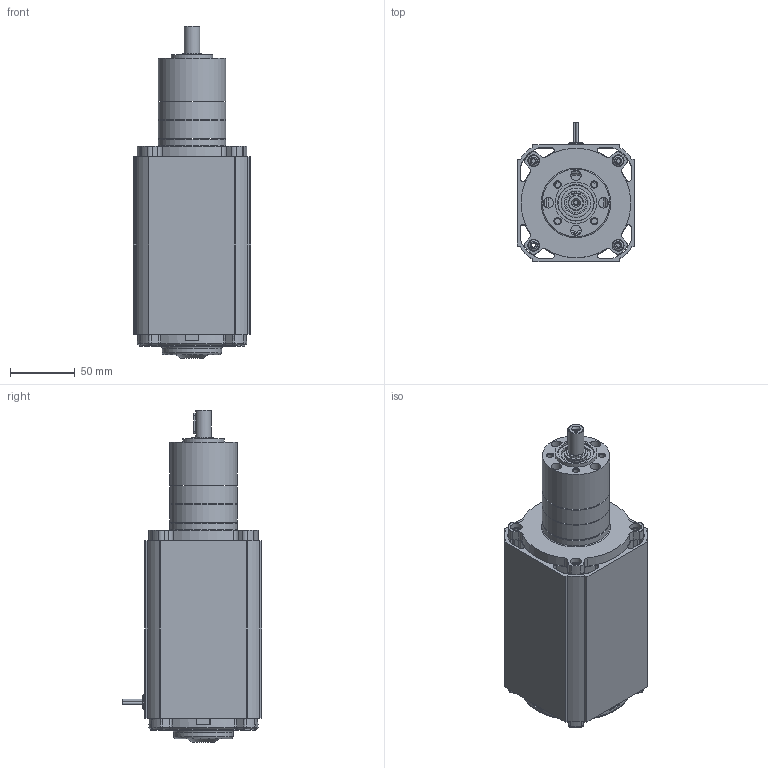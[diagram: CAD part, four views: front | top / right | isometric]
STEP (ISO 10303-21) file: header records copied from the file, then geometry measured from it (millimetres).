
FILE_DESCRIPTION (( 'STEP AP214' ), '1' );
FILE_NAME ('AC8060NV-PL5200i_2S.STEP', '2014-05-06T14:15:56', ( '' ), ( '' ), 'SwSTEP 2.0', 'SolidWorks 2014', '' );
FILE_SCHEMA (( 'AUTOMOTIVE_DESIGN' ));
Length unit declared in the file: inch
Products named in the file (1): AC8060NV-PL5200i_2S
Bounding box: 90.35 x 107.71 x 255.97 mm (x, y, z)
Surface area: 141652.8 mm2 (no closed solid volume)
Topology: 0 solids, 54 shells, 621 faces, 2480 edges, 1886 vertices
Faces by surface type: plane 249, cylinder 247, bspline 60, torus 35, cone 30
Full cylindrical faces by diameter (mm): 1.5 x2, 1.905 x4, 3.3 x1, 4.166 x8, 4.3 x1, 4.5 x4, 8 x4, 9.144 x4, 11.112 x1, 12 x1, 17.216 x1, 18 x1, 22.784 x1, 28 x1, 32 x1, 52 x3, 52.07 x1, 81.966 x1
Entity records: 37911 total; most frequent: CARTESIAN_POINT 10443, DIRECTION 3873, ORIENTED_EDGE 3533, EDGE_CURVE 2387, VERTEX_POINT 1869, AXIS2_PLACEMENT_3D 1366, LINE 1141, VECTOR 1141
